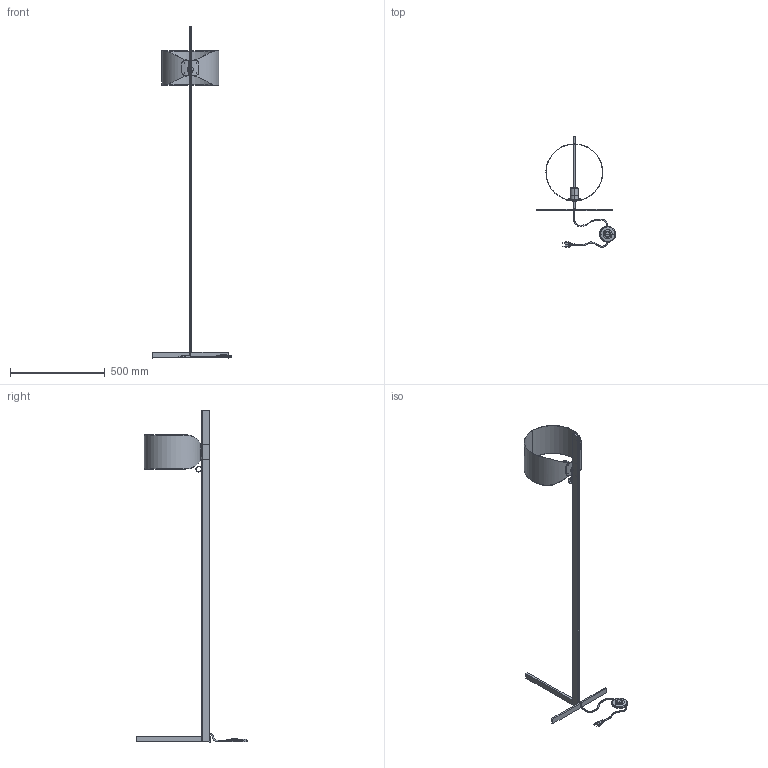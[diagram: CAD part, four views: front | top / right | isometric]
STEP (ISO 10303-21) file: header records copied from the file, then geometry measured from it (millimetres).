
FILE_DESCRIPTION(/* description */ (''),/* implementation_level */ '2;1');
FILE_NAME(/* name */ 'C:\Users\FrancoSartori\Documents\FARO\01_En Proceso\000_SOLICITUD INFO SIN PROCESAR\00_STAND UP\03_Publicación\STANDUP.stp',/* time_stamp */ '2022-04-11T11:35:08+02:00',/* author */ ('FrancoSartori'),/* organization */ (''),/* preprocessor_version */ 'ST-DEVELOPER v19',/* originating_system */ 'AutoCAD Mechanical',/* authorisation */ '');
FILE_SCHEMA (('AUTOMOTIVE_DESIGN { 1 0 10303 214 3 1 1 }'));
Length unit declared in the file: millimetre
Products named in the file (3): Product; STAND UP_ - STR-702899-Export; STANDUP_S - SH-702903-Export
Assembly tree (2 placements, depth 2):
  Product
    STAND UP_ - STR-702899-Export
    STANDUP_S - SH-702903-Export
Bounding box: 417.33 x 589.86 x 1750 mm (x, y, z)
Volume: 938085.5 mm3; surface area: 1097900.3 mm2
Topology: 17 solids, 19 shells, 283 faces, 697 edges, 444 vertices
Faces by surface type: plane 130, cylinder 119, torus 16, cone 10, bspline 8
Entity records: 25409 total; most frequent: CARTESIAN_POINT 18965, ORIENTED_EDGE 1386, DIRECTION 1175, EDGE_CURVE 697, VERTEX_POINT 444, AXIS2_PLACEMENT_3D 410, LINE 355, VECTOR 355
